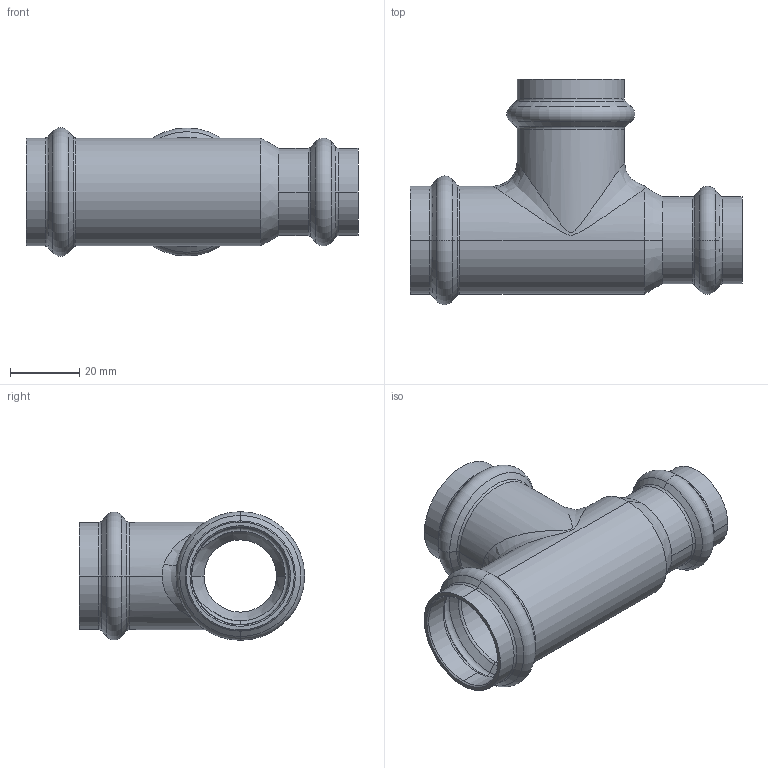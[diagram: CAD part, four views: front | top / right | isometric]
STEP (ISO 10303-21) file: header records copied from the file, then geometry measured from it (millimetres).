
FILE_DESCRIPTION (( 'STEP AP203' ), '1' );
FILE_NAME ('SP5130 Ø28-28-22.STEP', '2017-04-25T14:53:10', ( '' ), ( '' ), 'SwSTEP 2.0', 'SolidWorks 2016', '' );
FILE_SCHEMA (( 'CONFIG_CONTROL_DESIGN' ));
Length unit declared in the file: millimetre
Products named in the file (1): SP5130 Ø28-28-22
Bounding box: 96 x 65.1 x 37.2 mm (x, y, z)
Volume: 20885.9 mm3; surface area: 24342.9 mm2
Topology: 1 solids, 1 shells, 121 faces, 270 edges, 152 vertices
Faces by surface type: torus 43, cone 36, cylinder 33, plane 5, bspline 4
Entity records: 4955 total; most frequent: CARTESIAN_POINT 2132, DIRECTION 658, ORIENTED_EDGE 540, AXIS2_PLACEMENT_3D 296, EDGE_CURVE 270, CIRCLE 178, VERTEX_POINT 152, EDGE_LOOP 126
